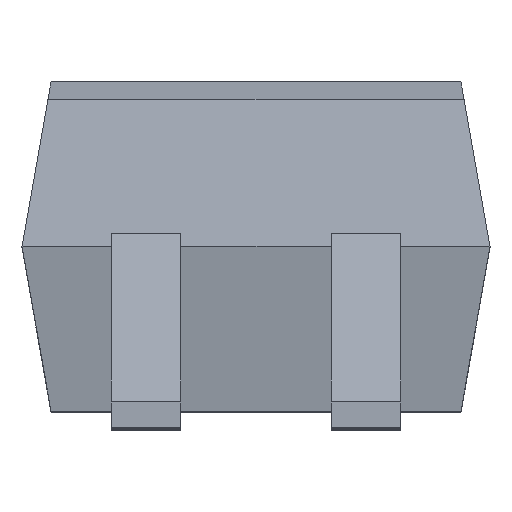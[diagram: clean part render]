
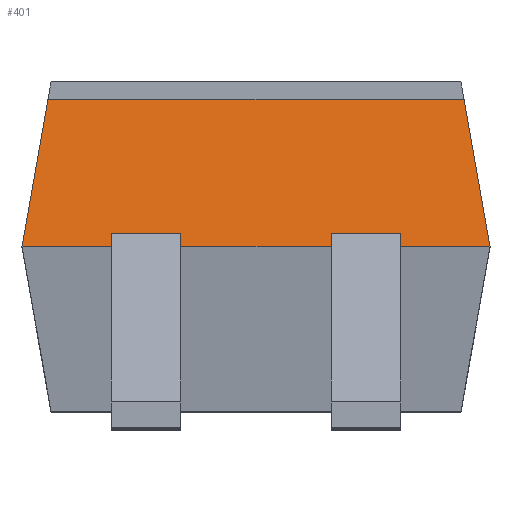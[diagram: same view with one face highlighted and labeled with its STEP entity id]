
A CAD part, top view. The second image highlights one B-rep face of the part: STEP entity #401.
In plain terms, the highlighted planar face has unit normal (0, 0.174, 0.985).
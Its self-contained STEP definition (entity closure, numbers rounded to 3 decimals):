
#17 = LINE ( 'NONE', #1754, #1710 ) ;
#18 = VECTOR ( 'NONE', #1651, 1000. ) ;
#26 = LINE ( 'NONE', #846, #1310 ) ;
#36 = EDGE_LOOP ( 'NONE', ( #2121, #1020, #242, #203, #1463, #155, #1827, #1653, #1720, #1667, #1984, #1858 ) ) ;
#41 = LINE ( 'NONE', #2125, #1179 ) ;
#55 = DIRECTION ( 'NONE',  ( 0., -0.985, 0.174 ) ) ;
#57 = DIRECTION ( 'NONE',  ( 0.171, 0.97, -0.171 ) ) ;
#133 = PLANE ( 'NONE',  #922 ) ;
#155 = ORIENTED_EDGE ( 'NONE', *, *, #2240, .T. ) ;
#201 = CARTESIAN_POINT ( 'NONE',  ( -1.364, 0.869, 2.214 ) ) ;
#203 = ORIENTED_EDGE ( 'NONE', *, *, #322, .F. ) ;
#239 = CARTESIAN_POINT ( 'NONE',  ( 1.35, 0.95, 2.2 ) ) ;
#242 = ORIENTED_EDGE ( 'NONE', *, *, #1214, .F. ) ;
#271 = CARTESIAN_POINT ( 'NONE',  ( 1.35, 0.405, 2.296 ) ) ;
#322 = EDGE_CURVE ( 'NONE', #1041, #1634, #41, .T. ) ;
#349 = EDGE_CURVE ( 'NONE', #638, #670, #408, .T. ) ;
#395 = LINE ( 'NONE', #1433, #1445 ) ;
#401 = ADVANCED_FACE ( 'NONE', ( #1479 ), #133, .T. ) ;
#408 = LINE ( 'NONE', #1095, #1977 ) ;
#443 = CARTESIAN_POINT ( 'NONE',  ( 1.35, 1.8, 2.05 ) ) ;
#522 = CARTESIAN_POINT ( 'NONE',  ( -0.435, 0.95, 2.2 ) ) ;
#577 = CARTESIAN_POINT ( 'NONE',  ( -0.835, 0.95, 2.2 ) ) ;
#613 = VERTEX_POINT ( 'NONE', #1579 ) ;
#638 = VERTEX_POINT ( 'NONE', #1080 ) ;
#670 = VERTEX_POINT ( 'NONE', #886 ) ;
#688 = DIRECTION ( 'NONE',  ( -1., 0., 0. ) ) ;
#701 = VECTOR ( 'NONE', #810, 1000. ) ;
#725 = CARTESIAN_POINT ( 'NONE',  ( -0.435, 1.025, 2.187 ) ) ;
#743 = CARTESIAN_POINT ( 'NONE',  ( 0.435, 0.95, 2.2 ) ) ;
#748 = CARTESIAN_POINT ( 'NONE',  ( -0.835, 1.025, 2.187 ) ) ;
#757 = DIRECTION ( 'NONE',  ( -0.171, 0.97, -0.171 ) ) ;
#810 = DIRECTION ( 'NONE',  ( -1., 0., 0. ) ) ;
#811 = EDGE_CURVE ( 'NONE', #1354, #2216, #1495, .T. ) ;
#846 = CARTESIAN_POINT ( 'NONE',  ( 1.35, 1.025, 2.187 ) ) ;
#854 = CARTESIAN_POINT ( 'NONE',  ( -1.35, 0.95, 2.2 ) ) ;
#886 = CARTESIAN_POINT ( 'NONE',  ( 0.835, 1.025, 2.187 ) ) ;
#897 = VERTEX_POINT ( 'NONE', #854 ) ;
#922 = AXIS2_PLACEMENT_3D ( 'NONE', #271, #1469, #1289 ) ;
#938 = CARTESIAN_POINT ( 'NONE',  ( 1.2, 1.8, 2.05 ) ) ;
#939 = LINE ( 'NONE', #2147, #1485 ) ;
#1020 = ORIENTED_EDGE ( 'NONE', *, *, #1617, .F. ) ;
#1041 = VERTEX_POINT ( 'NONE', #748 ) ;
#1080 = CARTESIAN_POINT ( 'NONE',  ( 0.435, 1.025, 2.187 ) ) ;
#1095 = CARTESIAN_POINT ( 'NONE',  ( 1.35, 1.025, 2.187 ) ) ;
#1097 = LINE ( 'NONE', #1417, #1175 ) ;
#1129 = LINE ( 'NONE', #239, #18 ) ;
#1175 = VECTOR ( 'NONE', #55, 1000. ) ;
#1179 = VECTOR ( 'NONE', #1802, 1000. ) ;
#1214 = EDGE_CURVE ( 'NONE', #1634, #897, #17, .T. ) ;
#1224 = CARTESIAN_POINT ( 'NONE',  ( 0.435, 0.405, 2.296 ) ) ;
#1247 = VERTEX_POINT ( 'NONE', #522 ) ;
#1289 = DIRECTION ( 'NONE',  ( 0., -0.985, 0.174 ) ) ;
#1292 = CARTESIAN_POINT ( 'NONE',  ( 0.835, 0.95, 2.2 ) ) ;
#1310 = VECTOR ( 'NONE', #1363, 1000. ) ;
#1354 = VERTEX_POINT ( 'NONE', #2243 ) ;
#1363 = DIRECTION ( 'NONE',  ( -1., 0., 0. ) ) ;
#1391 = LINE ( 'NONE', #201, #1565 ) ;
#1417 = CARTESIAN_POINT ( 'NONE',  ( -0.435, 0.405, 2.296 ) ) ;
#1433 = CARTESIAN_POINT ( 'NONE',  ( 1.443, 0.421, 2.293 ) ) ;
#1439 = EDGE_CURVE ( 'NONE', #613, #2216, #395, .T. ) ;
#1445 = VECTOR ( 'NONE', #757, 1000. ) ;
#1447 = DIRECTION ( 'NONE',  ( 1., 0., 0. ) ) ;
#1463 = ORIENTED_EDGE ( 'NONE', *, *, #2167, .F. ) ;
#1469 = DIRECTION ( 'NONE',  ( 0., 0.174, 0.985 ) ) ;
#1479 = FACE_OUTER_BOUND ( 'NONE', #36, .T. ) ;
#1485 = VECTOR ( 'NONE', #1639, 1000. ) ;
#1495 = LINE ( 'NONE', #443, #1595 ) ;
#1537 = LINE ( 'NONE', #1687, #701 ) ;
#1565 = VECTOR ( 'NONE', #57, 1000. ) ;
#1579 = CARTESIAN_POINT ( 'NONE',  ( 1.35, 0.95, 2.2 ) ) ;
#1595 = VECTOR ( 'NONE', #1447, 1000. ) ;
#1617 = EDGE_CURVE ( 'NONE', #897, #1354, #1391, .T. ) ;
#1626 = EDGE_CURVE ( 'NONE', #1821, #638, #2100, .T. ) ;
#1634 = VERTEX_POINT ( 'NONE', #577 ) ;
#1639 = DIRECTION ( 'NONE',  ( 0., 0.985, -0.174 ) ) ;
#1651 = DIRECTION ( 'NONE',  ( -1., 0., 0. ) ) ;
#1652 = VERTEX_POINT ( 'NONE', #1292 ) ;
#1653 = ORIENTED_EDGE ( 'NONE', *, *, #1626, .T. ) ;
#1660 = EDGE_CURVE ( 'NONE', #613, #1652, #1129, .T. ) ;
#1667 = ORIENTED_EDGE ( 'NONE', *, *, #1733, .F. ) ;
#1687 = CARTESIAN_POINT ( 'NONE',  ( 1.35, 0.95, 2.2 ) ) ;
#1710 = VECTOR ( 'NONE', #688, 1000. ) ;
#1720 = ORIENTED_EDGE ( 'NONE', *, *, #349, .T. ) ;
#1733 = EDGE_CURVE ( 'NONE', #1652, #670, #939, .T. ) ;
#1754 = CARTESIAN_POINT ( 'NONE',  ( 1.35, 0.95, 2.2 ) ) ;
#1760 = VECTOR ( 'NONE', #1923, 1000. ) ;
#1790 = DIRECTION ( 'NONE',  ( 1., 0., 0. ) ) ;
#1801 = EDGE_CURVE ( 'NONE', #1821, #1247, #1537, .T. ) ;
#1802 = DIRECTION ( 'NONE',  ( 0., -0.985, 0.174 ) ) ;
#1821 = VERTEX_POINT ( 'NONE', #743 ) ;
#1827 = ORIENTED_EDGE ( 'NONE', *, *, #1801, .F. ) ;
#1847 = VERTEX_POINT ( 'NONE', #725 ) ;
#1858 = ORIENTED_EDGE ( 'NONE', *, *, #1439, .T. ) ;
#1923 = DIRECTION ( 'NONE',  ( 0., 0.985, -0.174 ) ) ;
#1977 = VECTOR ( 'NONE', #1790, 1000. ) ;
#1984 = ORIENTED_EDGE ( 'NONE', *, *, #1660, .F. ) ;
#2100 = LINE ( 'NONE', #1224, #1760 ) ;
#2121 = ORIENTED_EDGE ( 'NONE', *, *, #811, .F. ) ;
#2125 = CARTESIAN_POINT ( 'NONE',  ( -0.835, 0.405, 2.296 ) ) ;
#2147 = CARTESIAN_POINT ( 'NONE',  ( 0.835, 0.405, 2.296 ) ) ;
#2167 = EDGE_CURVE ( 'NONE', #1847, #1041, #26, .T. ) ;
#2216 = VERTEX_POINT ( 'NONE', #938 ) ;
#2240 = EDGE_CURVE ( 'NONE', #1847, #1247, #1097, .T. ) ;
#2243 = CARTESIAN_POINT ( 'NONE',  ( -1.2, 1.8, 2.05 ) ) ;
